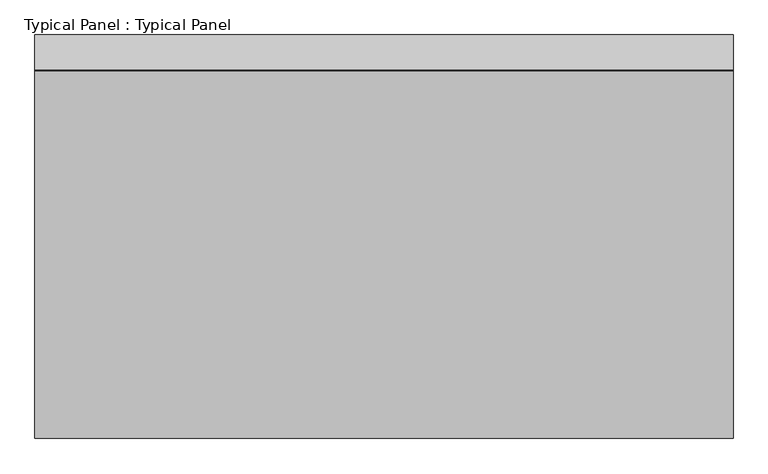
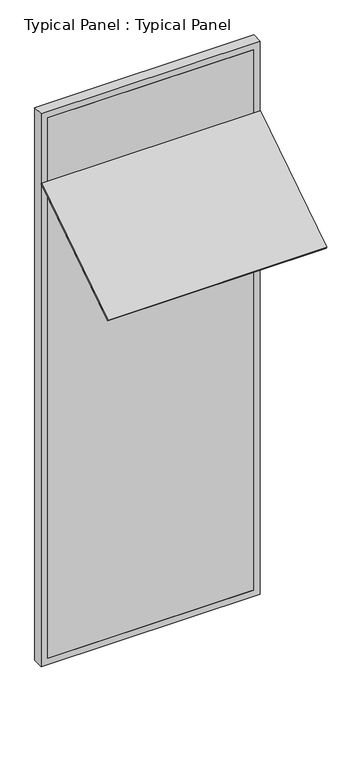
"""IFC4 building model written with IfcOpenShell, lengths in millimetres: plate geometry, Typical Panel : Typical Panel."""

from ifc_helpers import new_model, si_unit, frame, origin, place, context, project, spatial, polyline, outline, extrude, source, transform, mapped, element, save


def typical_panel_typical_panel_1338079b(model_context):
    return source(origin(), model_context, "Body", "SweptSolid", [
        extrude(outline(polyline([(0.0, -940.0), (0.0, 0.0), (1500.0, 0.0), (1500.0, -940.0), (0.0, -940.0)])), frame((750.0, -787.9039435, 2979.6526014), z_axis=(0.0, -0.5446390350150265, 0.8386705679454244), x_axis=(-1.0, 0.0, 0.0)), (0.0, 0.0, 1.0), 10.0),
        extrude(outline(polyline([(0.0, -750.0), (0.0, 750.0), (4000.0, 750.0), (4000.0, -750.0), (0.0, -750.0)]), holes=[polyline([(45.0, 705.0), (45.0, -705.0), (3955.0, -705.0), (3955.0, 705.0), (45.0, 705.0)])]), frame((0.0, -1.5797986, 0.0), z_axis=(0.0, 1.0, 0.0), x_axis=(0.0, 0.0, 1.0)), (0.0, 0.0, 1.0), 75.0),
        extrude(outline(polyline([(705.0, -1.5797986), (-705.0, -1.5797986), (-705.0, 13.4202014), (705.0, 13.4202014), (705.0, -1.5797986)])), frame((0.0, 0.0, 45.0), z_axis=(0.0, 0.0, 1.0), x_axis=(1.0, 0.0, 0.0)), (0.0, 0.0, 1.0), 3910.0),
    ])


if __name__ == "__main__":
    model = new_model("IFC4")
    model_context = context("Model", 3, world=origin())
    ifc_project = project(units=[si_unit("LENGTHUNIT", "METRE", prefix="MILLI")], contexts=[model_context])
    site = spatial("IfcSite", under=ifc_project)
    building = spatial("IfcBuilding", under=site)
    placement = place(None, origin())
    typical_panel_typical_panel_shape = typical_panel_typical_panel_1338079b(model_context)
    element("IfcPlate", 1, ObjectType="Typical Panel : Typical Panel", at=placement, inside=building, context=model_context, shape_type="MappedRepresentation", body=[
        mapped(typical_panel_typical_panel_shape, transform((0.0, 0.0, 0.0), x_axis=(1.0, 0.0, 0.0), y_axis=(0.0, 1.0, 0.0), z_axis=(0.0, 0.0, 1.0))),
    ])
    save(model, "model.ifc")
